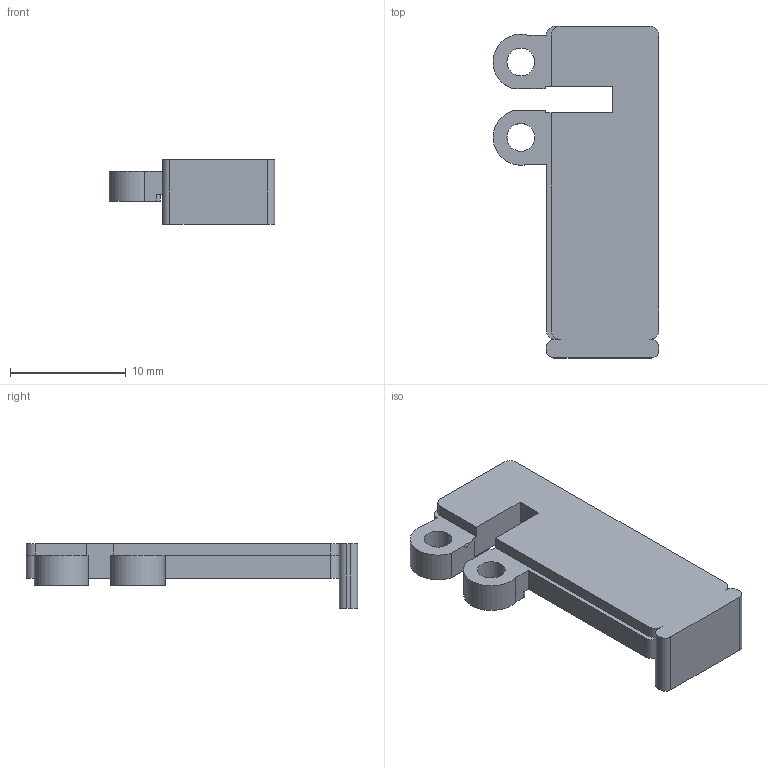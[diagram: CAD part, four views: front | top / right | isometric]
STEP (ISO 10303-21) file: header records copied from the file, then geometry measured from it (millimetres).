
FILE_DESCRIPTION(/* description */ (''),/* implementation_level */ '2;1');
FILE_NAME(/* name */ 'P19.step',/* time_stamp */ '2026-09-15T15:14:52-07:00',/* author */ (''),/* organization */ (''),/* preprocessor_version */ 'ST-DEVELOPER v20.1',/* originating_system */ 'Autodesk Translation Framework v15.8.0.0',/* authorisation */ '');
FILE_SCHEMA (('AUTOMOTIVE_DESIGN { 1 0 10303 214 3 1 1 }'));
Length unit declared in the file: millimetre
Products named in the file (1): 2026-09-15-15-14-52-905
Bounding box: 14.3 x 28.62 x 5.6 mm (x, y, z)
Volume: 895.2 mm3; surface area: 996.1 mm2
Topology: 1 solids, 1 shells, 46 faces, 132 edges, 88 vertices
Faces by surface type: plane 27, cylinder 18, torus 1
Full cylindrical faces by diameter (mm): 2.4 x2
Entity records: 1589 total; most frequent: CARTESIAN_POINT 304, ORIENTED_EDGE 264, DIRECTION 262, EDGE_CURVE 132, LINE 94, VECTOR 94, VERTEX_POINT 88, AXIS2_PLACEMENT_3D 84
